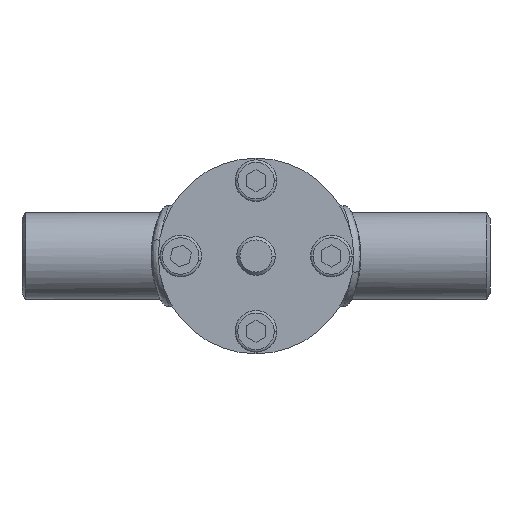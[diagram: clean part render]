
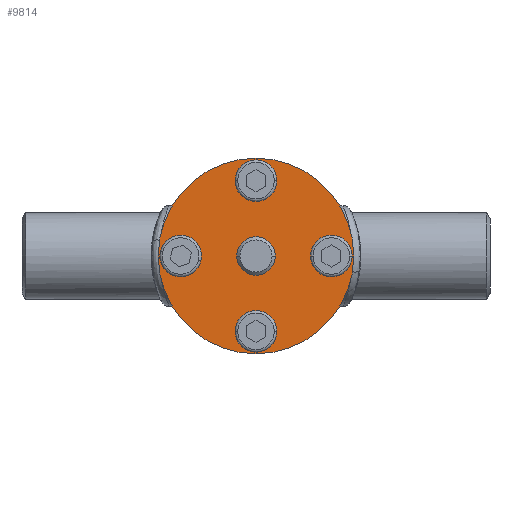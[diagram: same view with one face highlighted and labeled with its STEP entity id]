
A CAD part, front view. The second image highlights one B-rep face of the part: STEP entity #9814.
In plain terms, the highlighted planar face has unit normal (0, -1, 0) as drawn and (0, 0, -1) by its records, which use the part's own axes.
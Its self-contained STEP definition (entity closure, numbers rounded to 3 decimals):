
#16418 = CIRCLE ( 'NONE', #16419, 4.5 ) ;
#16419 = AXIS2_PLACEMENT_3D ( 'NONE', #16420, #16422, #16423 ) ;
#16420 = CARTESIAN_POINT ( 'NONE',  ( 0., -23.5, -18.5 ) ) ;
#16422 = DIRECTION ( 'NONE',  ( 0., 0., 1. ) ) ;
#16423 = DIRECTION ( 'NONE',  ( -1., 0., 0. ) ) ;
#16495 = VERTEX_POINT ( 'NONE', #16126 ) ;
#16583 = CARTESIAN_POINT ( 'NONE',  ( 19., 0., -18.5 ) ) ;
#16726 = EDGE_CURVE ( 'NONE', #16495, #17618, #16418, .T. ) ;
#16782 = EDGE_LOOP ( 'NONE', ( #16248, #15725 ) ) ;
#16823 = CIRCLE ( 'NONE', #16824, 4.5 ) ;
#16824 = AXIS2_PLACEMENT_3D ( 'NONE', #16825, #16826, #16827 ) ;
#16825 = CARTESIAN_POINT ( 'NONE',  ( 23.5, 0., -18.5 ) ) ;
#16826 = DIRECTION ( 'NONE',  ( 0., 0., 1. ) ) ;
#16827 = DIRECTION ( 'NONE',  ( -1., 0., 0. ) ) ;
#17027 = ORIENTED_EDGE ( 'NONE', *, *, #11474, .T. ) ;
#761 = EDGE_CURVE ( 'NONE', #11748, #11971, #18049, .T. ) ;
#17218 = CARTESIAN_POINT ( 'NONE',  ( 4.5, -23.5, -18.5 ) ) ;
#17219 = CARTESIAN_POINT ( 'NONE',  ( -28., 0., -18.5 ) ) ;
#17544 = ORIENTED_EDGE ( 'NONE', *, *, #7504, .T. ) ;
#17546 = CIRCLE ( 'NONE', #17547, 4.5 ) ;
#17547 = AXIS2_PLACEMENT_3D ( 'NONE', #17548, #17549, #17550 ) ;
#17548 = CARTESIAN_POINT ( 'NONE',  ( -23.5, 0., -18.5 ) ) ;
#17549 = DIRECTION ( 'NONE',  ( 0., 0., 1. ) ) ;
#17550 = DIRECTION ( 'NONE',  ( -1., 0., 0. ) ) ;
#17618 = VERTEX_POINT ( 'NONE', #17218 ) ;
#17619 = VERTEX_POINT ( 'NONE', #17219 ) ;
#17838 = EDGE_CURVE ( 'NONE', #17619, #19372, #17546, .T. ) ;
#18049 = CIRCLE ( 'NONE', #18050, 30.5 ) ;
#18050 = AXIS2_PLACEMENT_3D ( 'NONE', #18051, #18052, #18053 ) ;
#18051 = CARTESIAN_POINT ( 'NONE',  ( 0., 0., -18.5 ) ) ;
#18052 = DIRECTION ( 'NONE',  ( 0., 0., 1. ) ) ;
#18053 = DIRECTION ( 'NONE',  ( -1., 0., 0. ) ) ;
#18698 = CARTESIAN_POINT ( 'NONE',  ( -19., 0., -18.5 ) ) ;
#19372 = VERTEX_POINT ( 'NONE', #18698 ) ;
#3026 = ORIENTED_EDGE ( 'NONE', *, *, #21549, .T. ) ;
#3502 = CIRCLE ( 'NONE', #3503, 4.5 ) ;
#3503 = AXIS2_PLACEMENT_3D ( 'NONE', #3504, #3505, #3506 ) ;
#3504 = CARTESIAN_POINT ( 'NONE',  ( 23.5, 0., -18.5 ) ) ;
#3505 = DIRECTION ( 'NONE',  ( 0., 0., 1. ) ) ;
#3506 = DIRECTION ( 'NONE',  ( -1., 0., 0. ) ) ;
#20087 = FACE_OUTER_BOUND ( 'NONE', #9571, .T. ) ;
#20088 = FACE_BOUND ( 'NONE', #9813, .T. ) ;
#20089 = FACE_BOUND ( 'NONE', #8506, .T. ) ;
#20090 = FACE_BOUND ( 'NONE', #16782, .T. ) ;
#20091 = FACE_BOUND ( 'NONE', #15105, .T. ) ;
#20092 = FACE_BOUND ( 'NONE', #13816, .T. ) ;
#20093 = PLANE ( 'NONE',  #20094 ) ;
#20094 = AXIS2_PLACEMENT_3D ( 'NONE', #20095, #20096, #20097 ) ;
#20095 = CARTESIAN_POINT ( 'NONE',  ( 0., 0., -18.5 ) ) ;
#20096 = DIRECTION ( 'NONE',  ( 0., 0., -1. ) ) ;
#20097 = DIRECTION ( 'NONE',  ( -1., 0., 0. ) ) ;
#3832 = CARTESIAN_POINT ( 'NONE',  ( -30.5, 0., -18.5 ) ) ;
#3966 = CARTESIAN_POINT ( 'NONE',  ( 6., 0., -18.5 ) ) ;
#20782 = CIRCLE ( 'NONE', #20783, 4.5 ) ;
#20783 = AXIS2_PLACEMENT_3D ( 'NONE', #20784, #20785, #20786 ) ;
#20784 = CARTESIAN_POINT ( 'NONE',  ( 0., 23.5, -18.5 ) ) ;
#20785 = DIRECTION ( 'NONE',  ( 0., 0., 1. ) ) ;
#20786 = DIRECTION ( 'NONE',  ( -1., 0., 0. ) ) ;
#4492 = VERTEX_POINT ( 'NONE', #8876 ) ;
#4826 = CARTESIAN_POINT ( 'NONE',  ( 30.5, 0., -18.5 ) ) ;
#4992 = CARTESIAN_POINT ( 'NONE',  ( -6., 0., -18.5 ) ) ;
#21549 = EDGE_CURVE ( 'NONE', #13611, #14641, #20782, .T. ) ;
#5568 = EDGE_CURVE ( 'NONE', #17618, #16495, #14782, .T. ) ;
#5757 = CIRCLE ( 'NONE', #5758, 30.5 ) ;
#5758 = AXIS2_PLACEMENT_3D ( 'NONE', #5759, #5760, #5761 ) ;
#5759 = CARTESIAN_POINT ( 'NONE',  ( 0., 0., -18.5 ) ) ;
#5760 = DIRECTION ( 'NONE',  ( 0., 0., 1. ) ) ;
#5761 = DIRECTION ( 'NONE',  ( -1., 0., 0. ) ) ;
#6657 = CIRCLE ( 'NONE', #6658, 6. ) ;
#6658 = AXIS2_PLACEMENT_3D ( 'NONE', #6659, #6660, #6661 ) ;
#6659 = CARTESIAN_POINT ( 'NONE',  ( 0., 0., -18.5 ) ) ;
#6660 = DIRECTION ( 'NONE',  ( 0., 0., -1. ) ) ;
#6661 = DIRECTION ( 'NONE',  ( -1., 0., 0. ) ) ;
#7281 = VERTEX_POINT ( 'NONE', #16583 ) ;
#7504 = EDGE_CURVE ( 'NONE', #7281, #4492, #16823, .T. ) ;
#7867 = CARTESIAN_POINT ( 'NONE',  ( 4.5, 23.5, -18.5 ) ) ;
#8506 = EDGE_LOOP ( 'NONE', ( #17544, #17027 ) ) ;
#8762 = ORIENTED_EDGE ( 'NONE', *, *, #16351, .T. ) ;
#8876 = CARTESIAN_POINT ( 'NONE',  ( 28., 0., -18.5 ) ) ;
#9039 = ORIENTED_EDGE ( 'NONE', *, *, #12195, .F. ) ;
#9285 = ORIENTED_EDGE ( 'NONE', *, *, #17838, .T. ) ;
#9491 = CARTESIAN_POINT ( 'NONE',  ( -4.5, 23.5, -18.5 ) ) ;
#9571 = EDGE_LOOP ( 'NONE', ( #9039, #10020 ) ) ;
#9813 = EDGE_LOOP ( 'NONE', ( #9285, #8762 ) ) ;
#9814 = ADVANCED_FACE ( 'NONE', ( #20087, #20088, #20089, #20090, #20091, #20092 ), #20093, .T. ) ;
#10020 = ORIENTED_EDGE ( 'NONE', *, *, #761, .F. ) ;
#11474 = EDGE_CURVE ( 'NONE', #4492, #7281, #3502, .T. ) ;
#11748 = VERTEX_POINT ( 'NONE', #3832 ) ;
#11935 = VERTEX_POINT ( 'NONE', #3966 ) ;
#11971 = VERTEX_POINT ( 'NONE', #4826 ) ;
#12160 = VERTEX_POINT ( 'NONE', #4992 ) ;
#12195 = EDGE_CURVE ( 'NONE', #11971, #11748, #5757, .T. ) ;
#12384 = EDGE_CURVE ( 'NONE', #12160, #11935, #6657, .T. ) ;
#13285 = ORIENTED_EDGE ( 'NONE', *, *, #14865, .T. ) ;
#13611 = VERTEX_POINT ( 'NONE', #7867 ) ;
#13816 = EDGE_LOOP ( 'NONE', ( #13285, #3026 ) ) ;
#14059 = ORIENTED_EDGE ( 'NONE', *, *, #5568, .T. ) ;
#14570 = CIRCLE ( 'NONE', #14571, 4.5 ) ;
#14571 = AXIS2_PLACEMENT_3D ( 'NONE', #14572, #14573, #14574 ) ;
#14572 = CARTESIAN_POINT ( 'NONE',  ( 0., 23.5, -18.5 ) ) ;
#14573 = DIRECTION ( 'NONE',  ( 0., 0., 1. ) ) ;
#14574 = DIRECTION ( 'NONE',  ( -1., 0., 0. ) ) ;
#14583 = ORIENTED_EDGE ( 'NONE', *, *, #16726, .T. ) ;
#14641 = VERTEX_POINT ( 'NONE', #9491 ) ;
#14782 = CIRCLE ( 'NONE', #14783, 4.5 ) ;
#14783 = AXIS2_PLACEMENT_3D ( 'NONE', #14784, #14785, #14786 ) ;
#14784 = CARTESIAN_POINT ( 'NONE',  ( 0., -23.5, -18.5 ) ) ;
#14785 = DIRECTION ( 'NONE',  ( 0., 0., 1. ) ) ;
#14786 = DIRECTION ( 'NONE',  ( -1., 0., 0. ) ) ;
#14865 = EDGE_CURVE ( 'NONE', #14641, #13611, #14570, .T. ) ;
#14931 = CIRCLE ( 'NONE', #14932, 6. ) ;
#14932 = AXIS2_PLACEMENT_3D ( 'NONE', #14933, #14934, #14939 ) ;
#14933 = CARTESIAN_POINT ( 'NONE',  ( 0., 0., -18.5 ) ) ;
#14934 = DIRECTION ( 'NONE',  ( 0., 0., -1. ) ) ;
#14939 = DIRECTION ( 'NONE',  ( -1., 0., 0. ) ) ;
#15105 = EDGE_LOOP ( 'NONE', ( #14583, #14059 ) ) ;
#15348 = EDGE_CURVE ( 'NONE', #11935, #12160, #14931, .T. ) ;
#15725 = ORIENTED_EDGE ( 'NONE', *, *, #15348, .F. ) ;
#16090 = CIRCLE ( 'NONE', #16091, 4.5 ) ;
#16091 = AXIS2_PLACEMENT_3D ( 'NONE', #16092, #16093, #16094 ) ;
#16092 = CARTESIAN_POINT ( 'NONE',  ( -23.5, 0., -18.5 ) ) ;
#16093 = DIRECTION ( 'NONE',  ( 0., 0., 1. ) ) ;
#16094 = DIRECTION ( 'NONE',  ( -1., 0., 0. ) ) ;
#16126 = CARTESIAN_POINT ( 'NONE',  ( -4.5, -23.5, -18.5 ) ) ;
#16248 = ORIENTED_EDGE ( 'NONE', *, *, #12384, .F. ) ;
#16351 = EDGE_CURVE ( 'NONE', #19372, #17619, #16090, .T. ) ;
